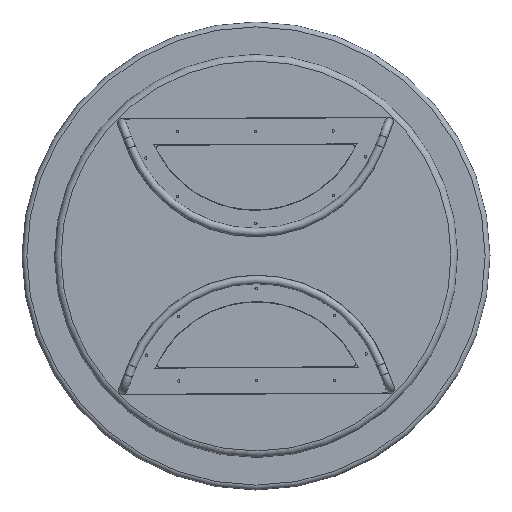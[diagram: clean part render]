
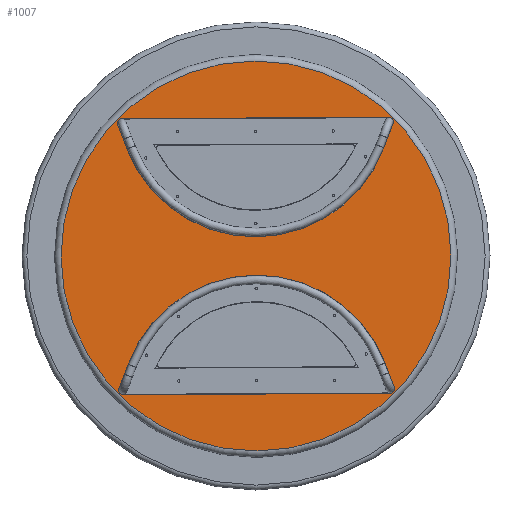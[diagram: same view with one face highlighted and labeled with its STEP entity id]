
A CAD part, front view. The second image highlights one B-rep face of the part: STEP entity #1007.
In plain terms, the highlighted planar face has unit normal (0, -1, 0).
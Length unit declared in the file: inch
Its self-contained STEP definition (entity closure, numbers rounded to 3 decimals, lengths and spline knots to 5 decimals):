
#59=FACE_BOUND('',#341,.T.);
#60=FACE_BOUND('',#342,.T.);
#86=LINE('',#1768,#150);
#91=LINE('',#1782,#155);
#95=LINE('',#1794,#159);
#98=LINE('',#1807,#162);
#99=LINE('',#1811,#163);
#100=LINE('',#1815,#164);
#150=VECTOR('',#1412,0.3937);
#155=VECTOR('',#1425,0.3937);
#159=VECTOR('',#1437,0.3937);
#162=VECTOR('',#1452,0.3937);
#163=VECTOR('',#1455,0.3937);
#164=VECTOR('',#1458,0.3937);
#279=FACE_OUTER_BOUND('',#340,.T.);
#340=EDGE_LOOP('',(#754));
#341=EDGE_LOOP('',(#755,#756,#757,#758,#759,#760));
#342=EDGE_LOOP('',(#761,#762,#763,#764,#765,#766));
#416=CIRCLE('',#1237,10.57666);
#418=CIRCLE('',#1241,0.34375);
#420=CIRCLE('',#1245,0.34375);
#422=CIRCLE('',#1249,15.);
#423=CIRCLE('',#1250,0.34375);
#424=CIRCLE('',#1251,0.34375);
#425=CIRCLE('',#1252,10.57666);
#484=VERTEX_POINT('',#1766);
#485=VERTEX_POINT('',#1767);
#488=VERTEX_POINT('',#1775);
#490=VERTEX_POINT('',#1781);
#492=VERTEX_POINT('',#1787);
#494=VERTEX_POINT('',#1793);
#496=VERTEX_POINT('',#1803);
#497=VERTEX_POINT('',#1805);
#498=VERTEX_POINT('',#1806);
#499=VERTEX_POINT('',#1808);
#500=VERTEX_POINT('',#1810);
#501=VERTEX_POINT('',#1812);
#502=VERTEX_POINT('',#1814);
#579=EDGE_CURVE('',#484,#485,#86,.T.);
#583=EDGE_CURVE('',#485,#488,#416,.T.);
#586=EDGE_CURVE('',#488,#490,#91,.T.);
#589=EDGE_CURVE('',#490,#492,#418,.T.);
#592=EDGE_CURVE('',#492,#494,#95,.T.);
#595=EDGE_CURVE('',#494,#484,#420,.T.);
#597=EDGE_CURVE('',#496,#496,#422,.T.);
#598=EDGE_CURVE('',#497,#498,#98,.T.);
#599=EDGE_CURVE('',#498,#499,#423,.T.);
#600=EDGE_CURVE('',#499,#500,#99,.T.);
#601=EDGE_CURVE('',#500,#501,#424,.T.);
#602=EDGE_CURVE('',#501,#502,#100,.T.);
#603=EDGE_CURVE('',#502,#497,#425,.T.);
#754=ORIENTED_EDGE('',*,*,#597,.F.);
#755=ORIENTED_EDGE('',*,*,#598,.T.);
#756=ORIENTED_EDGE('',*,*,#599,.T.);
#757=ORIENTED_EDGE('',*,*,#600,.T.);
#758=ORIENTED_EDGE('',*,*,#601,.T.);
#759=ORIENTED_EDGE('',*,*,#602,.T.);
#760=ORIENTED_EDGE('',*,*,#603,.T.);
#761=ORIENTED_EDGE('',*,*,#579,.T.);
#762=ORIENTED_EDGE('',*,*,#583,.T.);
#763=ORIENTED_EDGE('',*,*,#586,.T.);
#764=ORIENTED_EDGE('',*,*,#589,.T.);
#765=ORIENTED_EDGE('',*,*,#592,.T.);
#766=ORIENTED_EDGE('',*,*,#595,.T.);
#973=PLANE('',#1248);
#1007=ADVANCED_FACE('',(#279,#59,#60),#973,.F.);
#1237=AXIS2_PLACEMENT_3D('',#1776,#1418,#1419);
#1241=AXIS2_PLACEMENT_3D('',#1788,#1430,#1431);
#1245=AXIS2_PLACEMENT_3D('',#1799,#1442,#1443);
#1248=AXIS2_PLACEMENT_3D('',#1802,#1448,#1449);
#1249=AXIS2_PLACEMENT_3D('',#1804,#1450,#1451);
#1250=AXIS2_PLACEMENT_3D('',#1809,#1453,#1454);
#1251=AXIS2_PLACEMENT_3D('',#1813,#1456,#1457);
#1252=AXIS2_PLACEMENT_3D('',#1816,#1459,#1460);
#1412=DIRECTION('',(0.356,0.,0.935));
#1418=DIRECTION('center_axis',(0.,1.,0.));
#1419=DIRECTION('ref_axis',(-0.935,0.,0.356));
#1425=DIRECTION('',(0.356,0.,-0.935));
#1430=DIRECTION('center_axis',(0.,1.,0.));
#1431=DIRECTION('ref_axis',(0.935,0.,0.356));
#1437=DIRECTION('',(-1.,0.,0.));
#1442=DIRECTION('center_axis',(0.,1.,0.));
#1443=DIRECTION('ref_axis',(0.,0.,-1.));
#1448=DIRECTION('center_axis',(0.,1.,0.));
#1449=DIRECTION('ref_axis',(0.,0.,1.));
#1450=DIRECTION('center_axis',(0.,1.,0.));
#1451=DIRECTION('ref_axis',(1.,0.,0.));
#1452=DIRECTION('',(-0.356,0.,0.935));
#1453=DIRECTION('center_axis',(0.,1.,0.));
#1454=DIRECTION('ref_axis',(0.,0.,1.));
#1455=DIRECTION('',(1.,0.,0.));
#1456=DIRECTION('center_axis',(0.,1.,0.));
#1457=DIRECTION('ref_axis',(0.935,0.,-0.356));
#1458=DIRECTION('',(-0.356,0.,-0.935));
#1459=DIRECTION('center_axis',(0.,1.,0.));
#1460=DIRECTION('ref_axis',(-0.935,0.,-0.356));
#1766=CARTESIAN_POINT('',(-10.59642,0.,-10.15289));
#1767=CARTESIAN_POINT('',(-9.88509,0.,-8.28366));
#1768=CARTESIAN_POINT('',(-7.88308,0.,-3.02281));
#1775=CARTESIAN_POINT('',(9.88509,0.,-8.28366));
#1776=CARTESIAN_POINT('Origin',(0.,0.,-12.04541));
#1781=CARTESIAN_POINT('',(10.59642,0.,-10.15289));
#1782=CARTESIAN_POINT('',(8.23875,0.,-3.95743));
#1787=CARTESIAN_POINT('',(10.27515,0.,-10.6189));
#1788=CARTESIAN_POINT('Origin',(10.27515,0.,-10.27515));
#1793=CARTESIAN_POINT('',(-10.27515,0.,-10.6189));
#1794=CARTESIAN_POINT('',(-5.13757,0.,-10.6189));
#1799=CARTESIAN_POINT('Origin',(-10.27515,0.,-10.27515));
#1802=CARTESIAN_POINT('Origin',(0.,0.,0.));
#1803=CARTESIAN_POINT('',(0.,0.,-15.));
#1804=CARTESIAN_POINT('Origin',(0.,0.,0.));
#1805=CARTESIAN_POINT('',(-9.88509,0.,8.28366));
#1806=CARTESIAN_POINT('',(-10.59642,0.,10.15289));
#1807=CARTESIAN_POINT('',(-7.88308,0.,3.02281));
#1808=CARTESIAN_POINT('',(-10.27515,0.,10.6189));
#1809=CARTESIAN_POINT('Origin',(-10.27515,0.,10.27515));
#1810=CARTESIAN_POINT('',(10.27515,0.,10.6189));
#1811=CARTESIAN_POINT('',(-5.13757,0.,10.6189));
#1812=CARTESIAN_POINT('',(10.59642,0.,10.15289));
#1813=CARTESIAN_POINT('Origin',(10.27515,0.,10.27515));
#1814=CARTESIAN_POINT('',(9.88509,0.,8.28366));
#1815=CARTESIAN_POINT('',(8.23875,0.,3.95743));
#1816=CARTESIAN_POINT('Origin',(0.,0.,12.04541));
